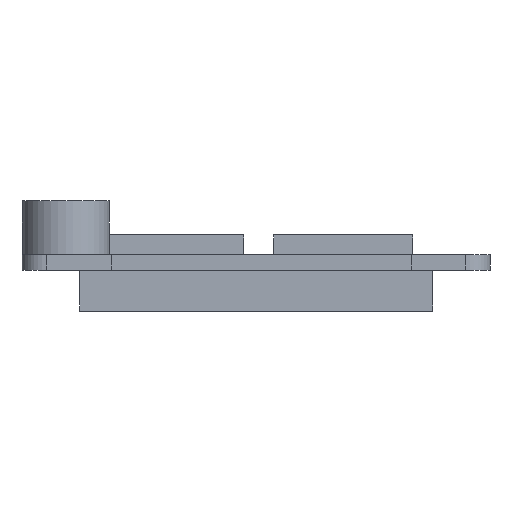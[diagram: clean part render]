
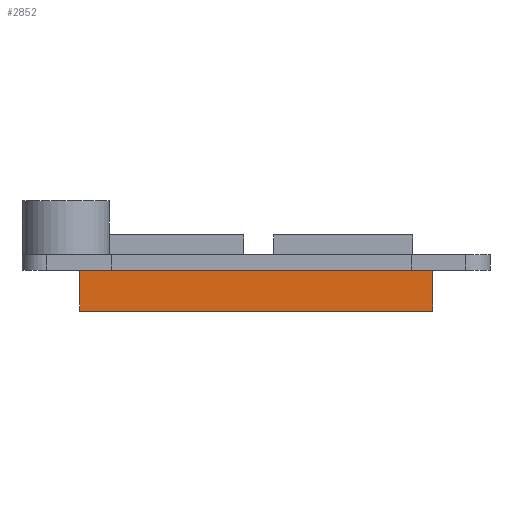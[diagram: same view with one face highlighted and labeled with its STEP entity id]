
A CAD part, front view. The second image highlights one B-rep face of the part: STEP entity #2852.
In plain terms, the highlighted planar face has unit normal (0, -1, 0).
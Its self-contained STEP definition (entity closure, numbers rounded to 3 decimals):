
#358=DIRECTION('',(1.,0.,0.));
#359=VECTOR('',#358,36.);
#360=CARTESIAN_POINT('',(6930.529,-2278.858,-1.6));
#361=LINE('',#360,#359);
#362=DIRECTION('',(0.,0.,1.));
#363=VECTOR('',#362,4.175);
#364=CARTESIAN_POINT('',(6930.529,-2278.858,-5.775));
#365=LINE('',#364,#363);
#370=DIRECTION('',(0.,0.,1.));
#371=VECTOR('',#370,4.175);
#372=CARTESIAN_POINT('',(6966.529,-2278.858,-5.775));
#373=LINE('',#372,#371);
#382=DIRECTION('',(1.,0.,0.));
#383=VECTOR('',#382,36.);
#384=CARTESIAN_POINT('',(6930.529,-2278.858,-5.775));
#385=LINE('',#384,#383);
#1872=CARTESIAN_POINT('',(6966.529,-2278.858,-1.6));
#1873=VERTEX_POINT('',#1872);
#1874=CARTESIAN_POINT('',(6930.529,-2278.858,-1.6));
#1875=VERTEX_POINT('',#1874);
#2308=CARTESIAN_POINT('',(6930.529,-2278.858,-5.775));
#2309=VERTEX_POINT('',#2308);
#2310=CARTESIAN_POINT('',(6966.529,-2278.858,-5.775));
#2311=VERTEX_POINT('',#2310);
#2839=CARTESIAN_POINT('',(6966.529,-2278.858,-1.6));
#2840=DIRECTION('',(0.,-1.,0.));
#2841=DIRECTION('',(-1.,0.,0.));
#2842=AXIS2_PLACEMENT_3D('',#2839,#2840,#2841);
#2843=PLANE('',#2842);
#2844=ORIENTED_EDGE('',*,*,#2692,.T.);
#2846=ORIENTED_EDGE('',*,*,#2845,.F.);
#2848=ORIENTED_EDGE('',*,*,#2847,.F.);
#2849=ORIENTED_EDGE('',*,*,#2831,.T.);
#2850=EDGE_LOOP('',(#2844,#2846,#2848,#2849));
#2851=FACE_OUTER_BOUND('',#2850,.F.);
#2692=EDGE_CURVE('',#1875,#1873,#361,.T.);
#2831=EDGE_CURVE('',#2309,#1875,#365,.T.);
#2845=EDGE_CURVE('',#2311,#1873,#373,.T.);
#2847=EDGE_CURVE('',#2309,#2311,#385,.T.);
#2852=ADVANCED_FACE('',(#2851),#2843,.T.);
